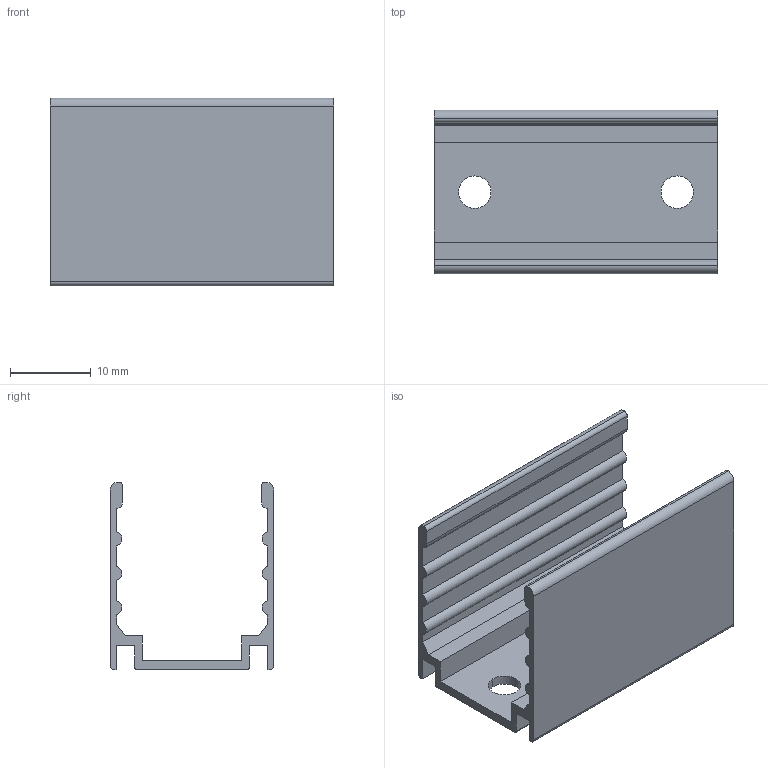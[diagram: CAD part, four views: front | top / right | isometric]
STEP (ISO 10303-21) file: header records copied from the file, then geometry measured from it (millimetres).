
FILE_DESCRIPTION(/* description */ (''),/* implementation_level */ '2;1');
FILE_NAME(/* name */ 'LF_SILICONE_STRAIGHT_PROFILE_L35_R01.step',/* time_stamp */ '2026-08-18T15:14:24+02:00',/* author */ (''),/* organization */ (''),/* preprocessor_version */ 'ST-DEVELOPER v20.1',/* originating_system */ 'Autodesk Translation Framework v15.8.0.0',/* authorisation */ '');
FILE_SCHEMA (('AUTOMOTIVE_DESIGN { 1 0 10303 214 3 1 1 }'));
Length unit declared in the file: millimetre
Products named in the file (1): 2026-08-18-10-59-34-118
Bounding box: 35 x 20.2 x 23.2 mm (x, y, z)
Volume: 2587.2 mm3; surface area: 5212 mm2
Topology: 1 solids, 1 shells, 53 faces, 153 edges, 102 vertices
Faces by surface type: plane 33, cylinder 20
Entity records: 1788 total; most frequent: CARTESIAN_POINT 309, ORIENTED_EDGE 306, DIRECTION 301, EDGE_CURVE 153, LINE 113, VECTOR 113, VERTEX_POINT 102, AXIS2_PLACEMENT_3D 94
